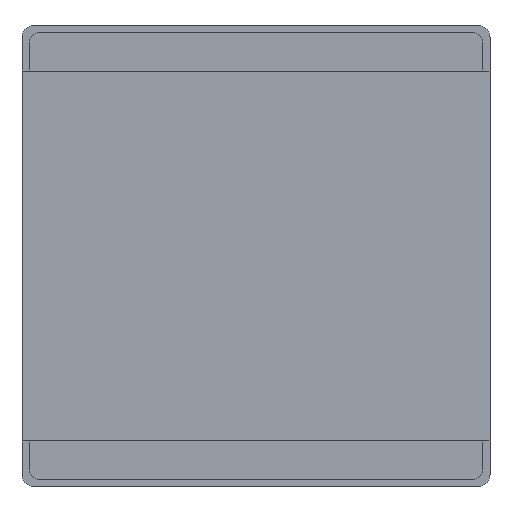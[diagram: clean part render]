
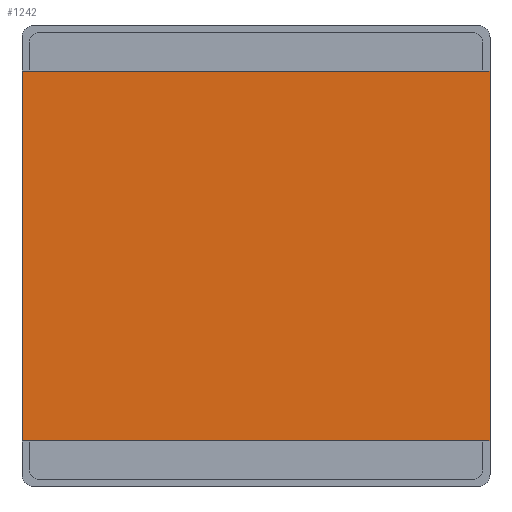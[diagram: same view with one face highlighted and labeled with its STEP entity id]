
A CAD part, front view. The second image highlights one B-rep face of the part: STEP entity #1242.
In plain terms, the highlighted planar face has unit normal (0, -1, 0).
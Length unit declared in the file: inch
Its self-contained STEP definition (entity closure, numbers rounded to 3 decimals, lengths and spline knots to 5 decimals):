
#70 = DIRECTION ( 'NONE',  ( 0., 0., -1. ) ) ;
#96 = ORIENTED_EDGE ( 'NONE', *, *, #371, .T. ) ;
#110 = CARTESIAN_POINT ( 'NONE',  ( -23.8752, 0., 0. ) ) ;
#169 = LINE ( 'NONE', #1328, #859 ) ;
#200 = FACE_OUTER_BOUND ( 'NONE', #658, .T. ) ;
#279 = EDGE_CURVE ( 'NONE', #1776, #1463, #169, .T. ) ;
#371 = EDGE_CURVE ( 'NONE', #1874, #1386, #1075, .T. ) ;
#377 = ORIENTED_EDGE ( 'NONE', *, *, #819, .F. ) ;
#484 = ORIENTED_EDGE ( 'NONE', *, *, #279, .F. ) ;
#568 = DIRECTION ( 'NONE',  ( -1., 0., 0. ) ) ;
#587 = VECTOR ( 'NONE', #1133, 39.37008 ) ;
#658 = EDGE_LOOP ( 'NONE', ( #484, #377, #96, #1266 ) ) ;
#662 = CARTESIAN_POINT ( 'NONE',  ( 23.8752, 0., 18.87402 ) ) ;
#690 = CARTESIAN_POINT ( 'NONE',  ( 23.8752, 0., 18.87402 ) ) ;
#819 = EDGE_CURVE ( 'NONE', #1874, #1776, #939, .T. ) ;
#859 = VECTOR ( 'NONE', #1315, 39.37008 ) ;
#867 = CARTESIAN_POINT ( 'NONE',  ( 23.8752, 0., -18.87402 ) ) ;
#939 = LINE ( 'NONE', #1700, #1691 ) ;
#984 = EDGE_CURVE ( 'NONE', #1386, #1463, #1766, .T. ) ;
#1075 = LINE ( 'NONE', #690, #1427 ) ;
#1133 = DIRECTION ( 'NONE',  ( 0., 0., -1. ) ) ;
#1206 = AXIS2_PLACEMENT_3D ( 'NONE', #1892, #1887, #1884 ) ;
#1242 = ADVANCED_FACE ( 'NONE', ( #200 ), #1890, .T. ) ;
#1266 = ORIENTED_EDGE ( 'NONE', *, *, #984, .T. ) ;
#1315 = DIRECTION ( 'NONE',  ( -1., 0., 0. ) ) ;
#1328 = CARTESIAN_POINT ( 'NONE',  ( 23.8752, 0., -18.87402 ) ) ;
#1386 = VERTEX_POINT ( 'NONE', #1646 ) ;
#1427 = VECTOR ( 'NONE', #568, 39.37008 ) ;
#1463 = VERTEX_POINT ( 'NONE', #1470 ) ;
#1470 = CARTESIAN_POINT ( 'NONE',  ( -23.8752, 0., -18.87402 ) ) ;
#1646 = CARTESIAN_POINT ( 'NONE',  ( -23.8752, 0., 18.87402 ) ) ;
#1691 = VECTOR ( 'NONE', #70, 39.37008 ) ;
#1700 = CARTESIAN_POINT ( 'NONE',  ( 23.8752, 0., 0. ) ) ;
#1766 = LINE ( 'NONE', #110, #587 ) ;
#1776 = VERTEX_POINT ( 'NONE', #867 ) ;
#1874 = VERTEX_POINT ( 'NONE', #662 ) ;
#1884 = DIRECTION ( 'NONE',  ( 0., 0., -1. ) ) ;
#1887 = DIRECTION ( 'NONE',  ( 0., -1., 0. ) ) ;
#1890 = PLANE ( 'NONE',  #1206 ) ;
#1892 = CARTESIAN_POINT ( 'NONE',  ( 0., 0., -23.5 ) ) ;
